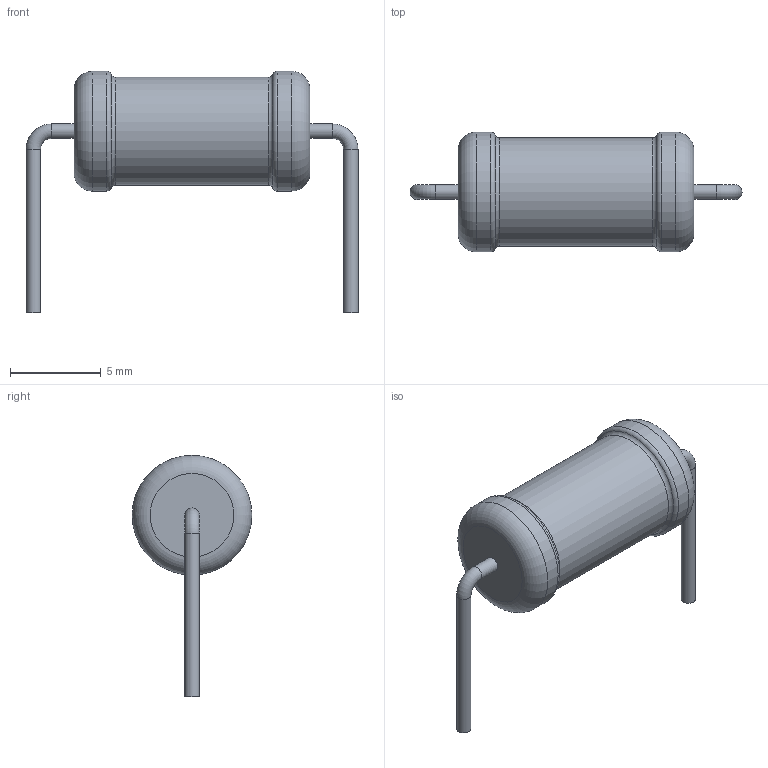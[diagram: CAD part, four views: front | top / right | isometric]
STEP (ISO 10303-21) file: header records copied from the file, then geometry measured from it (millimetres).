
FILE_DESCRIPTION(('STEP AP203'), '1');
FILE_NAME('ﾑ2-29ﾂﾌ-1(1)', '', ('UNSPECIFIED'), ('UNSPECIFIED'), 'ASCON STEP Converter 1.6', 'ASCON Math Kernel', '');
FILE_SCHEMA(('CONFIG_CONTROL_DESIGN'));
Length unit declared in the file: millimetre
Bounding box: 18.3 x 6.6 x 13.3 mm (x, y, z)
Volume: 392 mm3; surface area: 366.1 mm2
Topology: 1 solids, 1 shells, 19 faces, 33 edges, 18 vertices
Faces by surface type: torus 8, cylinder 7, plane 4
Full cylindrical faces by diameter (mm): 0.8 x4, 5.96 x1, 6.6 x2
Entity records: 570 total; most frequent: DIRECTION 76, CARTESIAN_POINT 56, AXIS2_PLACEMENT_3D 38, EDGE_LOOP 36, ORIENTED_EDGE 36, FACE_OUTER_BOUND 30, COLOUR_RGB 20, FILL_AREA_STYLE_COLOUR 20
